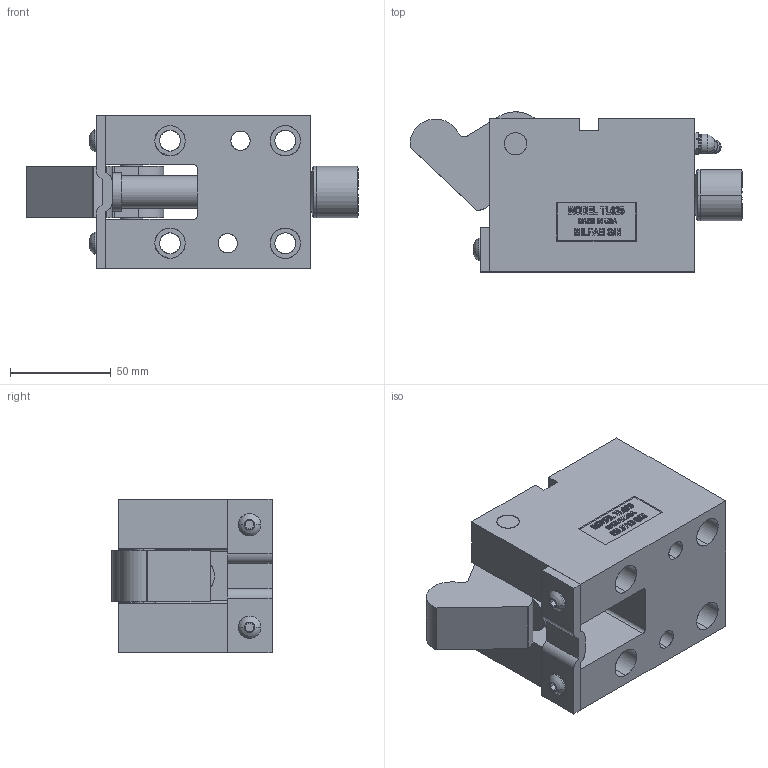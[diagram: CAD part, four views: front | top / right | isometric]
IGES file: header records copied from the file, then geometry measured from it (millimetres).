
Start section: SolidWorks IGES file using analytic representation for surfaces
Global section: file name: Y:\JIM'S INCH CAM UNITS\TL62545\OPEN\TL62545-O.IGS; native system: SolidWorks 2006 by SolidWorks Corporation; preprocessor: SolidWorks 2006 by SolidWorks Corporation; author: Jim; date: 090211.103534; units: inch
Bounding box: 164.51 x 79.37 x 76.2 mm (x, y, z)
Surface area: 96496.4 mm2 (no closed solid volume)
Topology: 0 solids, 0 shells, 589 faces, 7077 edges, 7073 vertices
Faces by surface type: bspline 453, revolution 136
